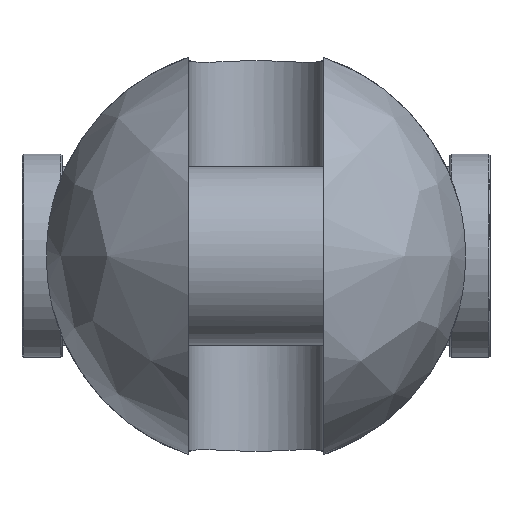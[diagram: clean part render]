
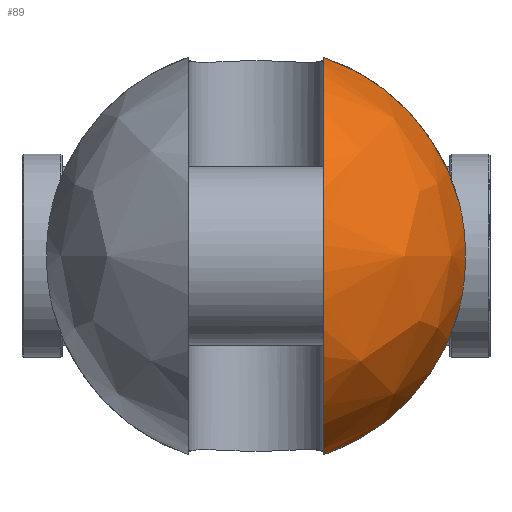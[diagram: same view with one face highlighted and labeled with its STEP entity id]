
A CAD part, left-side view. The second image highlights one B-rep face of the part: STEP entity #89.
In plain terms, the highlighted free-form (B-spline) face has degree [2, 2] with [9, 5] control points.
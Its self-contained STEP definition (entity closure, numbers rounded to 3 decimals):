
#89=ADVANCED_FACE('',(#164),#1306,.T.);
#164=FACE_OUTER_BOUND('',#249,.T.);
#249=EDGE_LOOP('',(#583,#584,#585,#586));
#583=ORIENTED_EDGE('',*,*,#807,.T.);
#584=ORIENTED_EDGE('',*,*,#835,.F.);
#585=ORIENTED_EDGE('',*,*,#847,.T.);
#586=ORIENTED_EDGE('',*,*,#827,.F.);
#807=EDGE_CURVE('',#1192,#1191,#1045,.T.);
#827=EDGE_CURVE('',#1192,#1204,#1055,.T.);
#835=EDGE_CURVE('',#1211,#1191,#1056,.T.);
#847=EDGE_CURVE('',#1211,#1204,#963,.T.);
#963=B_SPLINE_CURVE_WITH_KNOTS('',3,(#3152,#3153,#3154,#3155,#3156,#3157,
#3158,#3159,#3160,#3161,#3162,#3163,#3164,#3165),.UNSPECIFIED.,.F.,.F.,
(4,2,2,2,2,2,4),(0.,4.71,11.288,17.866,
24.445,31.023,35.733),.UNSPECIFIED.);
#1045=(
BOUNDED_CURVE()
B_SPLINE_CURVE(2,(#2896,#2897,#2898,#2899,#2900),.UNSPECIFIED.,.F.,.F.)
B_SPLINE_CURVE_WITH_KNOTS((3,2,3),(-202.139,-101.069,0.),
 .UNSPECIFIED.)
CURVE()
GEOMETRIC_REPRESENTATION_ITEM()
RATIONAL_B_SPLINE_CURVE((1.,0.707,1.,0.707,1.))
REPRESENTATION_ITEM('')
);
#1055=(
BOUNDED_CURVE()
B_SPLINE_CURVE(2,(#3022,#3023,#3024),.UNSPECIFIED.,.F.,.F.)
B_SPLINE_CURVE_WITH_KNOTS((3,3),(0.,67.328),.UNSPECIFIED.)
CURVE()
GEOMETRIC_REPRESENTATION_ITEM()
RATIONAL_B_SPLINE_CURVE((1.,0.88,1.))
REPRESENTATION_ITEM('')
);
#1056=(
BOUNDED_CURVE()
B_SPLINE_CURVE(2,(#3079,#3080,#3081),.UNSPECIFIED.,.F.,.F.)
B_SPLINE_CURVE_WITH_KNOTS((3,3),(0.,67.328),.UNSPECIFIED.)
CURVE()
GEOMETRIC_REPRESENTATION_ITEM()
RATIONAL_B_SPLINE_CURVE((1.,0.88,1.))
REPRESENTATION_ITEM('')
);
#1191=VERTEX_POINT('',#2837);
#1192=VERTEX_POINT('',#2838);
#1204=VERTEX_POINT('',#2850);
#1211=VERTEX_POINT('',#2857);
#1306=(
BOUNDED_SURFACE()
B_SPLINE_SURFACE(2,2,((#2445,#2446,#2447,#2448,#2449),(#2450,#2451,#2452,
#2453,#2454),(#2455,#2456,#2457,#2458,#2459),(#2460,#2461,#2462,#2463,#2464),
(#2465,#2466,#2467,#2468,#2469),(#2470,#2471,#2472,#2473,#2474),(#2475,
#2476,#2477,#2478,#2479),(#2480,#2481,#2482,#2483,#2484),(#2485,#2486,#2487,
#2488,#2489)),.UNSPECIFIED.,.T.,.F.,.F.)
B_SPLINE_SURFACE_WITH_KNOTS((3,2,2,2,3),(3,2,3),(0.,106.814,213.628,
320.442,427.257),(0.,106.814,213.628),
 .UNSPECIFIED.)
GEOMETRIC_REPRESENTATION_ITEM()
RATIONAL_B_SPLINE_SURFACE(((1.,0.707,1.,0.707,1.),
(0.707,0.5,0.707,0.5,0.707),(1.,0.707,
1.,0.707,1.),(0.707,0.5,0.707,0.5,0.707),
(1.,0.707,1.,0.707,1.),(0.707,0.5,0.707,
0.5,0.707),(1.,0.707,1.,0.707,1.),(0.707,
0.5,0.707,0.5,0.707),(1.,0.707,1.,0.707,
1.)))
REPRESENTATION_ITEM('')
SURFACE()
);
#2445=CARTESIAN_POINT('',(-97.5,0.,0.));
#2446=CARTESIAN_POINT('',(-97.5,68.,0.));
#2447=CARTESIAN_POINT('',(-29.5,68.,0.));
#2448=CARTESIAN_POINT('',(38.5,68.,0.));
#2449=CARTESIAN_POINT('',(38.5,0.,0.));
#2450=CARTESIAN_POINT('',(-97.5,0.,0.));
#2451=CARTESIAN_POINT('',(-97.5,68.,68.));
#2452=CARTESIAN_POINT('',(-29.5,68.,68.));
#2453=CARTESIAN_POINT('',(38.5,68.,68.));
#2454=CARTESIAN_POINT('',(38.5,0.,0.));
#2455=CARTESIAN_POINT('',(-97.5,0.,0.));
#2456=CARTESIAN_POINT('',(-97.5,0.,68.));
#2457=CARTESIAN_POINT('',(-29.5,0.,68.));
#2458=CARTESIAN_POINT('',(38.5,0.,68.));
#2459=CARTESIAN_POINT('',(38.5,0.,0.));
#2460=CARTESIAN_POINT('',(-97.5,0.,0.));
#2461=CARTESIAN_POINT('',(-97.5,-68.,68.));
#2462=CARTESIAN_POINT('',(-29.5,-68.,68.));
#2463=CARTESIAN_POINT('',(38.5,-68.,68.));
#2464=CARTESIAN_POINT('',(38.5,0.,0.));
#2465=CARTESIAN_POINT('',(-97.5,0.,0.));
#2466=CARTESIAN_POINT('',(-97.5,-68.,0.));
#2467=CARTESIAN_POINT('',(-29.5,-68.,0.));
#2468=CARTESIAN_POINT('',(38.5,-68.,0.));
#2469=CARTESIAN_POINT('',(38.5,0.,0.));
#2470=CARTESIAN_POINT('',(-97.5,0.,0.));
#2471=CARTESIAN_POINT('',(-97.5,-68.,-68.));
#2472=CARTESIAN_POINT('',(-29.5,-68.,-68.));
#2473=CARTESIAN_POINT('',(38.5,-68.,-68.));
#2474=CARTESIAN_POINT('',(38.5,0.,0.));
#2475=CARTESIAN_POINT('',(-97.5,0.,0.));
#2476=CARTESIAN_POINT('',(-97.5,0.,-68.));
#2477=CARTESIAN_POINT('',(-29.5,0.,-68.));
#2478=CARTESIAN_POINT('',(38.5,0.,-68.));
#2479=CARTESIAN_POINT('',(38.5,0.,0.));
#2480=CARTESIAN_POINT('',(-97.5,0.,0.));
#2481=CARTESIAN_POINT('',(-97.5,68.,-68.));
#2482=CARTESIAN_POINT('',(-29.5,68.,-68.));
#2483=CARTESIAN_POINT('',(38.5,68.,-68.));
#2484=CARTESIAN_POINT('',(38.5,0.,0.));
#2485=CARTESIAN_POINT('',(-97.5,0.,0.));
#2486=CARTESIAN_POINT('',(-97.5,68.,0.));
#2487=CARTESIAN_POINT('',(-29.5,68.,0.));
#2488=CARTESIAN_POINT('',(38.5,68.,0.));
#2489=CARTESIAN_POINT('',(38.5,0.,0.));
#2837=CARTESIAN_POINT('',(-29.5,-22.,-64.343));
#2838=CARTESIAN_POINT('',(-29.5,-22.,64.343));
#2850=CARTESIAN_POINT('',(-29.5,-65.865,16.904));
#2857=CARTESIAN_POINT('',(-29.5,-65.865,-16.904));
#2896=CARTESIAN_POINT('',(-29.5,-22.,64.343));
#2897=CARTESIAN_POINT('',(-93.843,-22.,64.343));
#2898=CARTESIAN_POINT('',(-93.843,-22.,0.));
#2899=CARTESIAN_POINT('',(-93.843,-22.,-64.343));
#2900=CARTESIAN_POINT('',(-29.5,-22.,-64.343));
#3022=CARTESIAN_POINT('',(-29.5,-22.,64.343));
#3023=CARTESIAN_POINT('',(-29.5,-56.739,52.465));
#3024=CARTESIAN_POINT('',(-29.5,-65.865,16.904));
#3079=CARTESIAN_POINT('',(-29.5,-65.865,-16.904));
#3080=CARTESIAN_POINT('',(-29.5,-56.739,-52.465));
#3081=CARTESIAN_POINT('',(-29.5,-22.,-64.343));
#3152=CARTESIAN_POINT('',(-29.5,-65.865,-16.904));
#3153=CARTESIAN_POINT('',(-30.268,-66.209,-15.564));
#3154=CARTESIAN_POINT('',(-30.953,-66.514,-14.155));
#3155=CARTESIAN_POINT('',(-32.357,-67.134,-10.668));
#3156=CARTESIAN_POINT('',(-32.982,-67.407,-8.542));
#3157=CARTESIAN_POINT('',(-33.803,-67.766,-4.256));
#3158=CARTESIAN_POINT('',(-34.,-67.851,-2.095));
#3159=CARTESIAN_POINT('',(-34.,-67.851,2.095));
#3160=CARTESIAN_POINT('',(-33.803,-67.766,4.256));
#3161=CARTESIAN_POINT('',(-32.982,-67.407,8.542));
#3162=CARTESIAN_POINT('',(-32.357,-67.134,10.668));
#3163=CARTESIAN_POINT('',(-30.953,-66.514,14.155));
#3164=CARTESIAN_POINT('',(-30.268,-66.209,15.564));
#3165=CARTESIAN_POINT('',(-29.5,-65.865,16.904));
